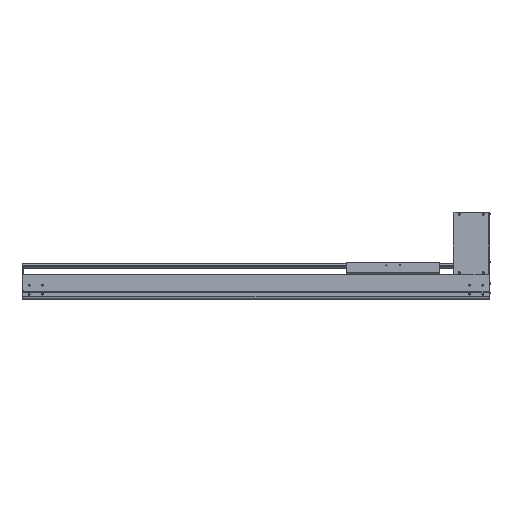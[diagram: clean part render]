
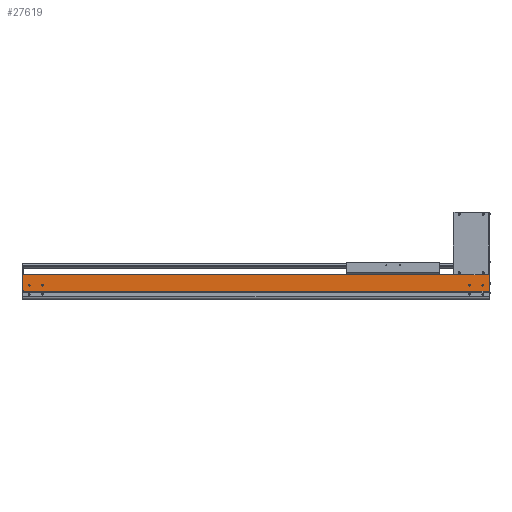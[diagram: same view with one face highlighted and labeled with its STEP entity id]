
A CAD part, top view. The second image highlights one B-rep face of the part: STEP entity #27619.
In plain terms, the highlighted planar face has unit normal (0, 0, 1).
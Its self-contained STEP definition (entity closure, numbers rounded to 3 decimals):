
#5001=DIRECTION('',(-1.,0.,0.));
#5002=VECTOR('',#5001,1748.5);
#5003=CARTESIAN_POINT('',(0.,93.5,107.));
#5004=LINE('',#5003,#5002);
#5040=CARTESIAN_POINT('',(0.,93.992,106.974));
#5041=CARTESIAN_POINT('',(0.,93.939,106.974));
#5042=CARTESIAN_POINT('',(0.,93.857,107.018));
#5043=CARTESIAN_POINT('',(0.,93.779,106.99));
#5044=CARTESIAN_POINT('',(0.,93.747,106.99));
#5046=CARTESIAN_POINT('',(0.,93.747,106.99));
#5047=CARTESIAN_POINT('',(0.,93.707,106.99));
#5048=CARTESIAN_POINT('',(0.,93.626,107.005));
#5049=CARTESIAN_POINT('',(0.,93.543,107.));
#5050=CARTESIAN_POINT('',(0.,93.5,107.));
#5052=CARTESIAN_POINT('',(-1723.5,54.,107.));
#5053=DIRECTION('',(0.,0.,-1.));
#5054=DIRECTION('',(1.,0.,0.));
#5055=AXIS2_PLACEMENT_3D('',#5052,#5053,#5054);
#5057=CARTESIAN_POINT('',(-1723.5,54.,107.));
#5058=DIRECTION('',(0.,0.,-1.));
#5059=DIRECTION('',(-1.,0.,0.));
#5060=AXIS2_PLACEMENT_3D('',#5057,#5058,#5059);
#5062=CARTESIAN_POINT('',(-1673.5,54.,107.));
#5063=DIRECTION('',(0.,0.,-1.));
#5064=DIRECTION('',(1.,0.,0.));
#5065=AXIS2_PLACEMENT_3D('',#5062,#5063,#5064);
#5067=CARTESIAN_POINT('',(-1673.5,54.,107.));
#5068=DIRECTION('',(0.,0.,-1.));
#5069=DIRECTION('',(-1.,0.,0.));
#5070=AXIS2_PLACEMENT_3D('',#5067,#5068,#5069);
#5072=CARTESIAN_POINT('',(-23.5,54.,107.));
#5073=DIRECTION('',(0.,0.,-1.));
#5074=DIRECTION('',(1.,0.,0.));
#5075=AXIS2_PLACEMENT_3D('',#5072,#5073,#5074);
#5077=CARTESIAN_POINT('',(-23.5,54.,107.));
#5078=DIRECTION('',(0.,0.,-1.));
#5079=DIRECTION('',(-1.,0.,0.));
#5080=AXIS2_PLACEMENT_3D('',#5077,#5078,#5079);
#5082=CARTESIAN_POINT('',(-73.5,54.,107.));
#5083=DIRECTION('',(0.,0.,-1.));
#5084=DIRECTION('',(1.,0.,0.));
#5085=AXIS2_PLACEMENT_3D('',#5082,#5083,#5084);
#5087=CARTESIAN_POINT('',(-73.5,54.,107.));
#5088=DIRECTION('',(0.,0.,-1.));
#5089=DIRECTION('',(-1.,0.,0.));
#5090=AXIS2_PLACEMENT_3D('',#5087,#5088,#5089);
#5092=DIRECTION('',(0.,-1.,0.));
#5093=VECTOR('',#5092,2.55);
#5094=CARTESIAN_POINT('',(-1746.5,34.65,107.));
#5095=LINE('',#5094,#5093);
#5096=DIRECTION('',(0.,-1.,0.));
#5097=VECTOR('',#5096,58.85);
#5098=CARTESIAN_POINT('',(-1748.5,93.5,107.));
#5099=LINE('',#5098,#5097);
#5100=DIRECTION('',(0.,1.,0.));
#5101=VECTOR('',#5100,58.35);
#5102=CARTESIAN_POINT('',(1.5,35.65,107.));
#5103=LINE('',#5102,#5101);
#5104=DIRECTION('',(0.,1.,0.));
#5105=VECTOR('',#5104,3.55);
#5106=CARTESIAN_POINT('',(0.,32.1,107.));
#5107=LINE('',#5106,#5105);
#5108=DIRECTION('',(1.,0.,0.));
#5109=VECTOR('',#5108,1746.5);
#5110=CARTESIAN_POINT('',(-1746.5,32.1,107.));
#5111=LINE('',#5110,#5109);
#5220=DIRECTION('',(1.,0.,0.));
#5221=VECTOR('',#5220,2.);
#5222=CARTESIAN_POINT('',(-1748.5,34.65,107.));
#5223=LINE('',#5222,#5221);
#5248=DIRECTION('',(-1.,-0.006,-0.017));
#5249=VECTOR('',#5248,1.5);
#5250=CARTESIAN_POINT('',(1.5,94.,107.));
#5251=LINE('',#5250,#5249);
#8830=DIRECTION('',(1.,0.,0.));
#8831=VECTOR('',#8830,1.5);
#8832=CARTESIAN_POINT('',(0.,35.65,107.));
#8833=LINE('',#8832,#8831);
#16332=CARTESIAN_POINT('',(1.5,94.,107.));
#16333=VERTEX_POINT('',#16332);
#16334=CARTESIAN_POINT('',(1.5,35.65,107.));
#16335=VERTEX_POINT('',#16334);
#16404=CARTESIAN_POINT('',(-1748.5,34.65,107.));
#16405=VERTEX_POINT('',#16404);
#16406=CARTESIAN_POINT('',(-1748.5,93.5,107.));
#16407=VERTEX_POINT('',#16406);
#16632=CARTESIAN_POINT('',(-1746.5,32.1,107.));
#16633=VERTEX_POINT('',#16632);
#16683=CARTESIAN_POINT('',(0.,32.1,107.));
#16685=VERTEX_POINT('',#16683);
#17194=CARTESIAN_POINT('',(-1721.,54.,107.));
#17195=CARTESIAN_POINT('',(-1726.,54.,107.));
#17196=VERTEX_POINT('',#17194);
#17197=VERTEX_POINT('',#17195);
#17198=CARTESIAN_POINT('',(-1671.,54.,107.));
#17199=CARTESIAN_POINT('',(-1676.,54.,107.));
#17200=VERTEX_POINT('',#17198);
#17201=VERTEX_POINT('',#17199);
#17202=CARTESIAN_POINT('',(-21.,54.,107.));
#17203=CARTESIAN_POINT('',(-26.,54.,107.));
#17204=VERTEX_POINT('',#17202);
#17205=VERTEX_POINT('',#17203);
#17206=CARTESIAN_POINT('',(-71.,54.,107.));
#17207=CARTESIAN_POINT('',(-76.,54.,107.));
#17208=VERTEX_POINT('',#17206);
#17209=VERTEX_POINT('',#17207);
#19276=CARTESIAN_POINT('',(0.,35.65,107.));
#19277=VERTEX_POINT('',#19276);
#19418=CARTESIAN_POINT('',(0.,93.975,106.923));
#19419=VERTEX_POINT('',#19418);
#19420=VERTEX_POINT('',#5044);
#19421=VERTEX_POINT('',#5050);
#19879=CARTESIAN_POINT('',(-1746.5,34.65,107.));
#19880=VERTEX_POINT('',#19879);
#27573=CARTESIAN_POINT('',(-873.25,62.8,107.));
#27574=DIRECTION('',(0.,0.,1.));
#27575=DIRECTION('',(0.,-1.,0.));
#27576=AXIS2_PLACEMENT_3D('',#27573,#27574,#27575);
#27577=PLANE('',#27576);
#27578=ORIENTED_EDGE('',*,*,#23077,.F.);
#27580=ORIENTED_EDGE('',*,*,#27579,.F.);
#27581=ORIENTED_EDGE('',*,*,#26646,.F.);
#27582=ORIENTED_EDGE('',*,*,#27551,.F.);
#27583=ORIENTED_EDGE('',*,*,#27568,.F.);
#27584=ORIENTED_EDGE('',*,*,#27566,.F.);
#27586=ORIENTED_EDGE('',*,*,#27585,.F.);
#27587=ORIENTED_EDGE('',*,*,#21608,.F.);
#27589=ORIENTED_EDGE('',*,*,#27588,.F.);
#27590=ORIENTED_EDGE('',*,*,#23835,.F.);
#27592=ORIENTED_EDGE('',*,*,#27591,.F.);
#27593=EDGE_LOOP('',(#27578,#27580,#27581,#27582,#27583,#27584,#27586,#27587,
#27589,#27590,#27592));
#27594=FACE_OUTER_BOUND('',#27593,.F.);
#27596=ORIENTED_EDGE('',*,*,#27595,.F.);
#27598=ORIENTED_EDGE('',*,*,#27597,.F.);
#27599=EDGE_LOOP('',(#27596,#27598));
#27600=FACE_BOUND('',#27599,.F.);
#27602=ORIENTED_EDGE('',*,*,#27601,.F.);
#27604=ORIENTED_EDGE('',*,*,#27603,.F.);
#27605=EDGE_LOOP('',(#27602,#27604));
#27606=FACE_BOUND('',#27605,.F.);
#27608=ORIENTED_EDGE('',*,*,#27607,.F.);
#27610=ORIENTED_EDGE('',*,*,#27609,.F.);
#27611=EDGE_LOOP('',(#27608,#27610));
#27612=FACE_BOUND('',#27611,.F.);
#27614=ORIENTED_EDGE('',*,*,#27613,.F.);
#27616=ORIENTED_EDGE('',*,*,#27615,.F.);
#27617=EDGE_LOOP('',(#27614,#27616));
#27618=FACE_BOUND('',#27617,.F.);
#27619=ADVANCED_FACE('',(#27594,#27600,#27606,#27612,#27618),#27577,.T.);
#5045=B_SPLINE_CURVE_WITH_KNOTS('',3,(#5040,#5041,#5042,#5043,#5044),
.UNSPECIFIED.,.F.,.F.,(4,1,4),(0.,0.5,1.),.UNSPECIFIED.);
#5051=B_SPLINE_CURVE_WITH_KNOTS('',3,(#5046,#5047,#5048,#5049,#5050),
.UNSPECIFIED.,.F.,.F.,(4,1,4),(0.,0.5,1.),.UNSPECIFIED.);
#5056=CIRCLE('',#5055,2.5);
#5061=CIRCLE('',#5060,2.5);
#5066=CIRCLE('',#5065,2.5);
#5071=CIRCLE('',#5070,2.5);
#5076=CIRCLE('',#5075,2.5);
#5081=CIRCLE('',#5080,2.5);
#5086=CIRCLE('',#5085,2.5);
#5091=CIRCLE('',#5090,2.5);
#21608=EDGE_CURVE('',#16335,#16333,#5103,.T.);
#23077=EDGE_CURVE('',#19880,#16633,#5095,.T.);
#23835=EDGE_CURVE('',#16685,#19277,#5107,.T.);
#26646=EDGE_CURVE('',#16407,#16405,#5099,.T.);
#27551=EDGE_CURVE('',#19421,#16407,#5004,.T.);
#27566=EDGE_CURVE('',#19419,#19420,#5045,.T.);
#27568=EDGE_CURVE('',#19420,#19421,#5051,.T.);
#27579=EDGE_CURVE('',#16405,#19880,#5223,.T.);
#27585=EDGE_CURVE('',#16333,#19419,#5251,.T.);
#27588=EDGE_CURVE('',#19277,#16335,#8833,.T.);
#27591=EDGE_CURVE('',#16633,#16685,#5111,.T.);
#27595=EDGE_CURVE('',#17200,#17201,#5066,.T.);
#27597=EDGE_CURVE('',#17201,#17200,#5071,.T.);
#27601=EDGE_CURVE('',#17204,#17205,#5076,.T.);
#27603=EDGE_CURVE('',#17205,#17204,#5081,.T.);
#27607=EDGE_CURVE('',#17208,#17209,#5086,.T.);
#27609=EDGE_CURVE('',#17209,#17208,#5091,.T.);
#27613=EDGE_CURVE('',#17196,#17197,#5056,.T.);
#27615=EDGE_CURVE('',#17197,#17196,#5061,.T.);
